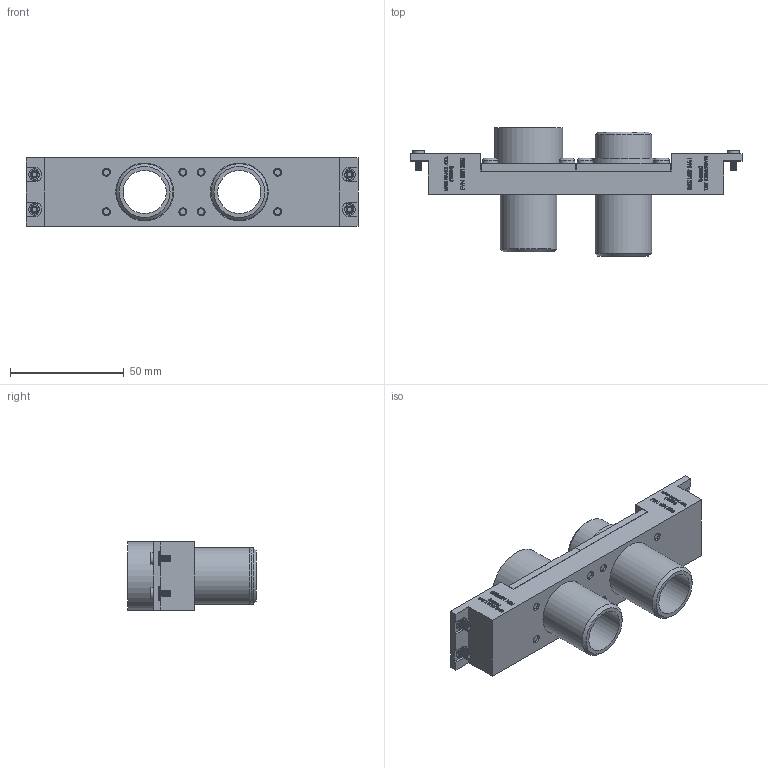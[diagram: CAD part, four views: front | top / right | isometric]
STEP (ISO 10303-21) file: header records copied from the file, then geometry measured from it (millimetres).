
FILE_DESCRIPTION(/* description */ (''),/* implementation_level */ '2;1');
FILE_NAME(/* name */ 'C:\Marketing\Inventor Web Projects\STP files\561339-RevA-STP\561339-RevA-STP.stp',/* time_stamp */ '2013-12-11T09:58:21-05:00',/* author */ ('shodnett'),/* organization */ (''),/* preprocessor_version */ 'ST-DEVELOPER v15.2',/* originating_system */ 'Autodesk Inventor 2014',/* authorisation */ '');
FILE_SCHEMA (('AUTOMOTIVE_DESIGN { 1 0 10303 214 3 1 1 }'));
Length unit declared in the file: inch
Products named in the file (1): 561339-CU
Bounding box: 146.05 x 56.52 x 30.16 mm (x, y, z)
Surface area: 39030.7 mm2 (no closed solid volume)
Topology: 0 solids, 36 shells, 1999 faces, 5012 edges, 3269 vertices
Faces by surface type: plane 1144, bspline 672, cylinder 147, cone 28, torus 8
Full cylindrical faces by diameter (mm): 0.005 x8, 2.381 x4, 2.845 x24, 3.429 x4, 3.505 x16, 3.81 x8, 3.962 x8, 4.064 x4, 5.08 x4, 6.858 x8, 19.05 x2, 24.892 x4, 25.4 x3, 28.956 x1, 29.972 x1
Entity records: 71576 total; most frequent: CARTESIAN_POINT 27594, ORIENTED_EDGE 9578, DIRECTION 6302, EDGE_CURVE 4789, VERTEX_POINT 3185, LINE 3092, VECTOR 3092, EDGE_LOOP 2316
